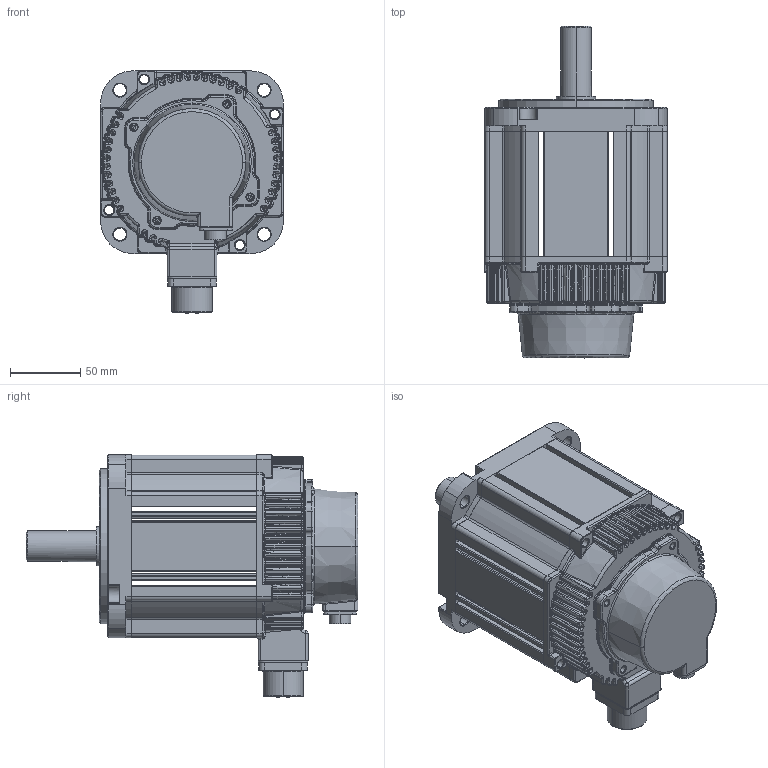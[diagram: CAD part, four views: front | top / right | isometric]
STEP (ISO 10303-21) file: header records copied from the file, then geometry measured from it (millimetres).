
FILE_DESCRIPTION (( 'STEP AP203' ), '1' );
FILE_NAME ('130BST-M11515.STEP', '2021-12-20T00:50:50', ( '' ), ( '' ), 'SwSTEP 2.0', 'SolidWorks 2015', '' );
FILE_SCHEMA (( 'CONFIG_CONTROL_DESIGN' ));
Length unit declared in the file: millimetre
Products named in the file (1): 130BST-M11515
Bounding box: 130 x 236 x 172.35 mm (x, y, z)
Surface area: 144828.3 mm2 (no closed solid volume)
Topology: 0 solids, 1229 shells, 1868 faces, 7385 edges, 6665 vertices
Faces by surface type: cylinder 617, bspline 375, torus 317, plane 308, sphere 145, cone 106
Entity records: 133644 total; most frequent: CARTESIAN_POINT 80069, DIRECTION 9883, ORIENTED_EDGE 8542, EDGE_CURVE 7209, VERTEX_POINT 6578, AXIS2_PLACEMENT_3D 3965, CIRCLE 2471, B_SPLINE_CURVE_WITH_KNOTS 2459
